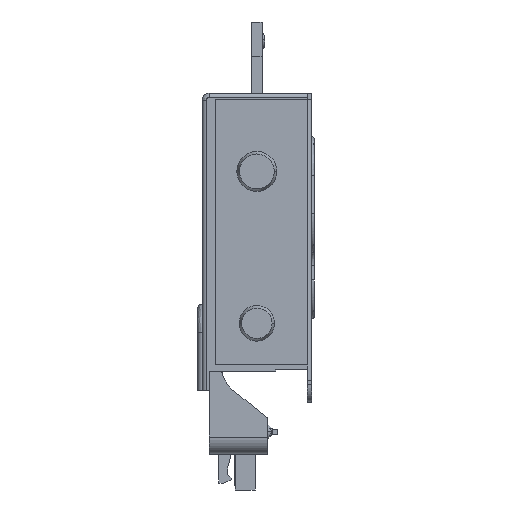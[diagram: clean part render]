
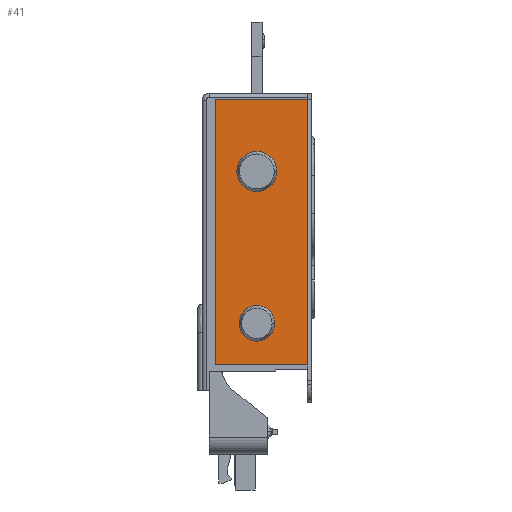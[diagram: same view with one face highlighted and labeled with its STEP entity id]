
A CAD part, left-side view. The second image highlights one B-rep face of the part: STEP entity #41.
In plain terms, the highlighted planar face has unit normal (-1, 0, 0).
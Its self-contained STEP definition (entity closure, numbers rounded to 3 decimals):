
#41 = ADVANCED_FACE ( 'NONE', ( #7549, #7367, #7398 ), #2104, .T. ) ;
#604 = CARTESIAN_POINT ( 'NONE',  ( -45.5, -26.5, 0. ) ) ;
#618 = DIRECTION ( 'NONE',  ( 1., 0., 0. ) ) ;
#620 = DIRECTION ( 'NONE',  ( 0., 0., -1. ) ) ;
#1542 = VERTEX_POINT ( 'NONE', #14045 ) ;
#1703 = VERTEX_POINT ( 'NONE', #14218 ) ;
#1705 = VERTEX_POINT ( 'NONE', #14047 ) ;
#1710 = VERTEX_POINT ( 'NONE', #13921 ) ;
#1726 = VERTEX_POINT ( 'NONE', #14066 ) ;
#1729 = VERTEX_POINT ( 'NONE', #14233 ) ;
#1788 = VERTEX_POINT ( 'NONE', #10921 ) ;
#1828 = VERTEX_POINT ( 'NONE', #10844 ) ;
#2104 = PLANE ( 'NONE',  #5759 ) ;
#2328 = DIRECTION ( 'NONE',  ( 0., 1., 0. ) ) ;
#2344 = CARTESIAN_POINT ( 'NONE',  ( -45.5, -0.7, 5.8 ) ) ;
#2793 = DIRECTION ( 'NONE',  ( 0., 0., -1. ) ) ;
#2796 = DIRECTION ( 'NONE',  ( 1., 0., 0. ) ) ;
#2798 = CARTESIAN_POINT ( 'NONE',  ( -45.5, -9., 0. ) ) ;
#3223 = AXIS2_PLACEMENT_3D ( 'NONE', #2798, #2796, #2793 ) ;
#3388 = AXIS2_PLACEMENT_3D ( 'NONE', #604, #618, #620 ) ;
#3567 = AXIS2_PLACEMENT_3D ( 'NONE', #10781, #10767, #10765 ) ;
#3582 = AXIS2_PLACEMENT_3D ( 'NONE', #5309, #5275, #5273 ) ;
#4524 = EDGE_CURVE ( 'NONE', #1703, #1726, #9089, .T. ) ;
#4675 = EDGE_CURVE ( 'NONE', #1710, #1705, #9308, .T. ) ;
#5194 = DIRECTION ( 'NONE',  ( 0., 0., -1. ) ) ;
#5196 = DIRECTION ( 'NONE',  ( 0., 1., 0. ) ) ;
#5199 = CARTESIAN_POINT ( 'NONE',  ( -45.5, -0.7, -4.8 ) ) ;
#5219 = CARTESIAN_POINT ( 'NONE',  ( -45.5, -31.3, -4.8 ) ) ;
#5267 = DIRECTION ( 'NONE',  ( 0., 0., 1. ) ) ;
#5268 = CARTESIAN_POINT ( 'NONE',  ( -45.5, -0.7, 5.8 ) ) ;
#5273 = DIRECTION ( 'NONE',  ( 0., 0., -1. ) ) ;
#5275 = DIRECTION ( 'NONE',  ( 1., 0., 0. ) ) ;
#5309 = CARTESIAN_POINT ( 'NONE',  ( -45.5, -26.5, 0. ) ) ;
#5759 = AXIS2_PLACEMENT_3D ( 'NONE', #11704, #11696, #11695 ) ;
#7367 = FACE_BOUND ( 'NONE', #13379, .T. ) ;
#7398 = FACE_BOUND ( 'NONE', #13235, .T. ) ;
#7549 = FACE_OUTER_BOUND ( 'NONE', #13202, .T. ) ;
#8500 = EDGE_CURVE ( 'NONE', #1726, #1703, #9419, .T. ) ;
#9089 = CIRCLE ( 'NONE', #3567, 2.3 ) ;
#9308 = CIRCLE ( 'NONE', #3388, 2.05 ) ;
#9419 = CIRCLE ( 'NONE', #3223, 2.3 ) ;
#9580 = VECTOR ( 'NONE', #2328, 1000. ) ;
#9584 = LINE ( 'NONE', #2344, #9580 ) ;
#9884 = LINE ( 'NONE', #5268, #9887 ) ;
#9887 = VECTOR ( 'NONE', #5267, 1000. ) ;
#9891 = CIRCLE ( 'NONE', #3582, 2.05 ) ;
#9905 = LINE ( 'NONE', #5219, #9918 ) ;
#9916 = LINE ( 'NONE', #5199, #9917 ) ;
#9917 = VECTOR ( 'NONE', #5196, 1000. ) ;
#9918 = VECTOR ( 'NONE', #5194, 1000. ) ;
#10212 = EDGE_CURVE ( 'NONE', #1788, #1828, #9584, .T. ) ;
#10414 = EDGE_CURVE ( 'NONE', #1705, #1710, #9891, .T. ) ;
#10415 = EDGE_CURVE ( 'NONE', #1542, #1828, #9884, .T. ) ;
#10429 = EDGE_CURVE ( 'NONE', #1729, #1542, #9916, .T. ) ;
#10430 = EDGE_CURVE ( 'NONE', #1788, #1729, #9905, .T. ) ;
#10765 = DIRECTION ( 'NONE',  ( 0., 0., -1. ) ) ;
#10767 = DIRECTION ( 'NONE',  ( 1., 0., 0. ) ) ;
#10781 = CARTESIAN_POINT ( 'NONE',  ( -45.5, -9., 0. ) ) ;
#10844 = CARTESIAN_POINT ( 'NONE',  ( -45.5, -0.7, 5.8 ) ) ;
#10921 = CARTESIAN_POINT ( 'NONE',  ( -45.5, -31.3, 5.8 ) ) ;
#11695 = DIRECTION ( 'NONE',  ( 0., 0., 1. ) ) ;
#11696 = DIRECTION ( 'NONE',  ( -1., 0., 0. ) ) ;
#11704 = CARTESIAN_POINT ( 'NONE',  ( -45.5, -0.7, -4.8 ) ) ;
#12506 = ORIENTED_EDGE ( 'NONE', *, *, #10430, .F. ) ;
#12539 = ORIENTED_EDGE ( 'NONE', *, *, #4524, .T. ) ;
#12551 = ORIENTED_EDGE ( 'NONE', *, *, #10415, .F. ) ;
#12554 = ORIENTED_EDGE ( 'NONE', *, *, #10429, .F. ) ;
#12555 = ORIENTED_EDGE ( 'NONE', *, *, #4675, .T. ) ;
#12556 = ORIENTED_EDGE ( 'NONE', *, *, #10414, .T. ) ;
#12602 = ORIENTED_EDGE ( 'NONE', *, *, #10212, .T. ) ;
#12634 = ORIENTED_EDGE ( 'NONE', *, *, #8500, .T. ) ;
#13202 = EDGE_LOOP ( 'NONE', ( #12506, #12602, #12551, #12554 ) ) ;
#13235 = EDGE_LOOP ( 'NONE', ( #12555, #12556 ) ) ;
#13379 = EDGE_LOOP ( 'NONE', ( #12539, #12634 ) ) ;
#13921 = CARTESIAN_POINT ( 'NONE',  ( -45.5, -26.5, -2.05 ) ) ;
#14045 = CARTESIAN_POINT ( 'NONE',  ( -45.5, -0.7, -4.8 ) ) ;
#14047 = CARTESIAN_POINT ( 'NONE',  ( -45.5, -26.5, 2.05 ) ) ;
#14066 = CARTESIAN_POINT ( 'NONE',  ( -45.5, -9., 2.3 ) ) ;
#14218 = CARTESIAN_POINT ( 'NONE',  ( -45.5, -9., -2.3 ) ) ;
#14233 = CARTESIAN_POINT ( 'NONE',  ( -45.5, -31.3, -4.8 ) ) ;
